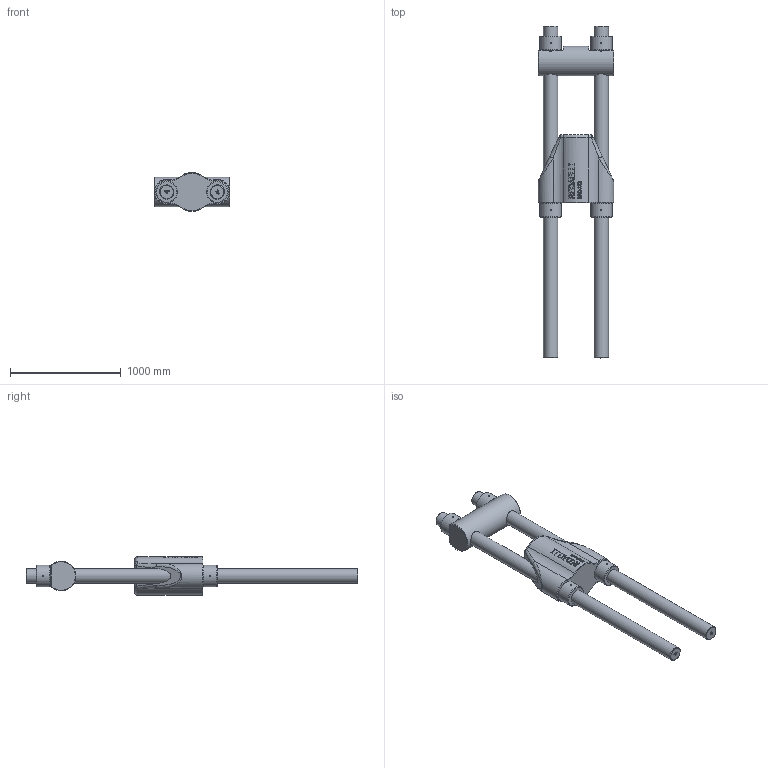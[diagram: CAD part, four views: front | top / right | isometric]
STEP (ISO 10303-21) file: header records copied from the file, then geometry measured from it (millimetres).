
FILE_DESCRIPTION(/* description */ (''),/* implementation_level */ '2;1');
FILE_NAME(/* name */ 'D:\Clienti\Redaelli (inventor)\BRC\STEP\Arrangemet\BRC112 72 111 0.stp',/* time_stamp */ '2021-05-08T08:41:40+02:00',/* author */ ('fabri'),/* organization */ (''),/* preprocessor_version */ 'ST-DEVELOPER v16.13',/* originating_system */ 'Autodesk Inventor 2018',/* authorisation */ '');
FILE_SCHEMA (('AUTOMOTIVE_DESIGN { 1 0 10303 214 3 1 1 }'));
Length unit declared in the file: millimetre
Products named in the file (5): BRC020 72 111 0; BRC020 71 112 0; BRC020 71 114 0_ROD; BRC020 71 113 0; BRC020 71 114 0_NUT
Assembly tree (8 placements, depth 2):
  BRC020 72 111 0
    BRC020 71 112 0
    BRC020 71 114 0_ROD  x2
    BRC020 71 113 0
    BRC020 71 114 0_NUT  x4
Bounding box: 682 x 3000 x 350 mm (x, y, z)
Volume: 192889938.6 mm3; surface area: 5406442.2 mm2
Topology: 8 solids, 8 shells, 1460 faces, 3950 edges, 2622 vertices
Faces by surface type: plane 815, bspline 523, cylinder 68, cone 30, torus 20, sphere 4
Full cylindrical faces by diameter (mm): 10 x16, 123.505 x4, 130 x2, 136 x4, 195 x4, 268 x1
Entity records: 29123 total; most frequent: CARTESIAN_POINT 10603, ORIENTED_EDGE 4298, DIRECTION 2813, EDGE_CURVE 2149, VERTEX_POINT 1432, LINE 1303, VECTOR 1303, EDGE_LOOP 909
